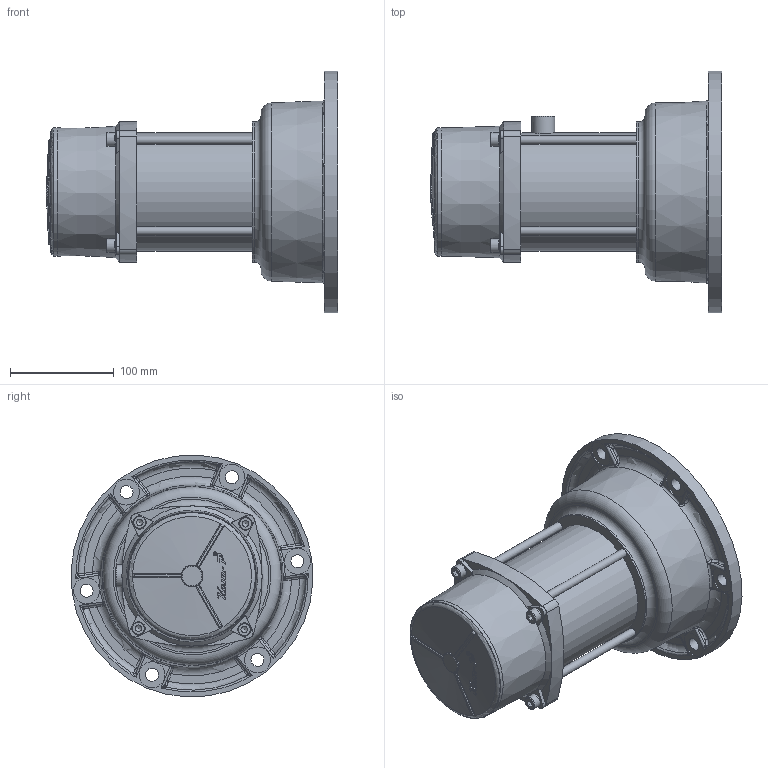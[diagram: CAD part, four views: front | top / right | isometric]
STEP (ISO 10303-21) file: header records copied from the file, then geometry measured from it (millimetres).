
FILE_DESCRIPTION(/* description */ (''),/* implementation_level */ '2;1');
FILE_NAME(/* name */ 'EVM-FT 500x3.stp',/* time_stamp */ '2026-09-09T12:14:54+03:00',/* author */ ('PC'),/* organization */ (''),/* preprocessor_version */ 'ST-DEVELOPER v20.1',/* originating_system */ 'Autodesk Inventor 2026',/* authorisation */ '');
FILE_SCHEMA (('AUTOMOTIVE_DESIGN { 1 0 10303 214 3 1 1 }'));
Length unit declared in the file: millimetre
Products named in the file (1): EVM-FT 500x3
Bounding box: 281 x 232.85 x 232.85 mm (x, y, z)
Volume: 4305523.9 mm3; surface area: 243371.4 mm2
Topology: 1 solids, 17 shells, 536 faces, 1323 edges, 838 vertices
Faces by surface type: plane 223, bspline 133, cylinder 97, torus 44, cone 39
Full cylindrical faces by diameter (mm): 6.647 x8, 8 x8, 8.4 x4, 8.5 x4, 12.5 x6, 13 x8, 14 x4, 22 x1, 25 x6, 114 x1, 123.343 x1, 135 x1, 176 x1, 182.5 x1, 233 x1
Entity records: 20347 total; most frequent: CARTESIAN_POINT 8414, ORIENTED_EDGE 2606, DIRECTION 1973, EDGE_CURVE 1303, VERTEX_POINT 838, AXIS2_PLACEMENT_3D 790, EDGE_LOOP 609, FACE_OUTER_BOUND 536
